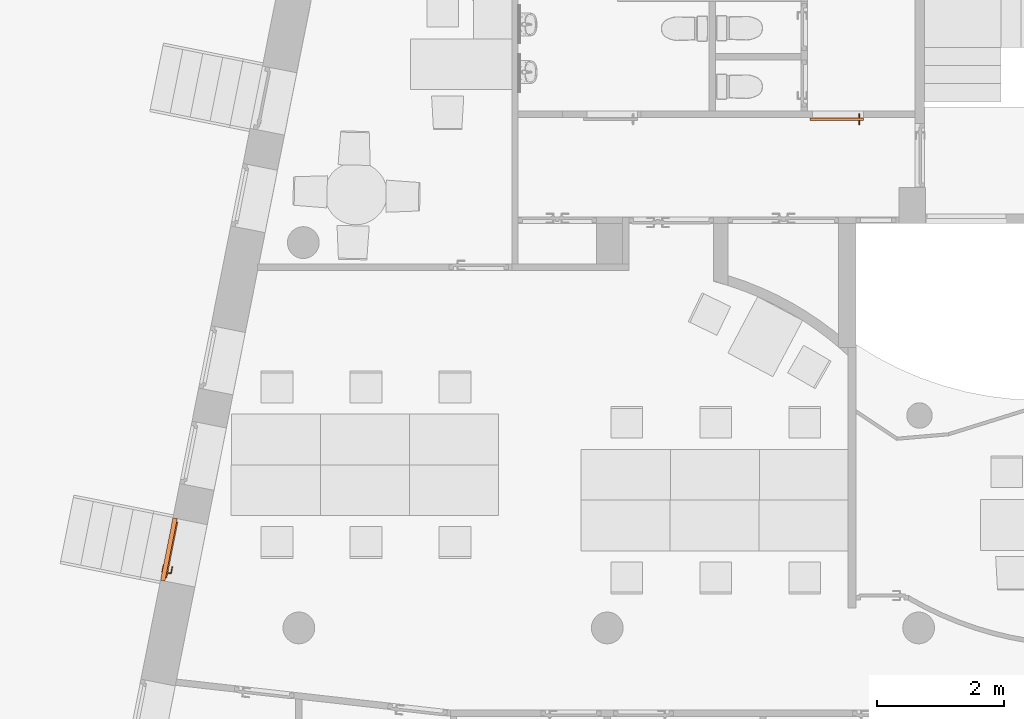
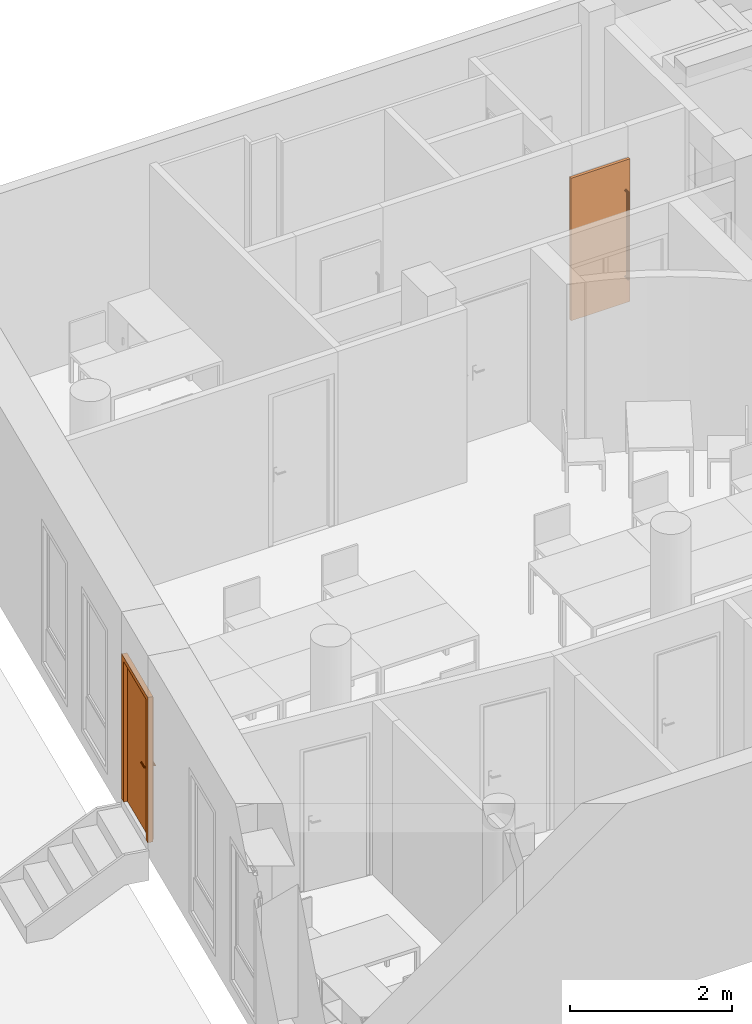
"""IFC4 building model written with IfcOpenShell, lengths in metres."""

from ifc_helpers import new_model, entity, si_unit, converted_unit, derived_unit, frame, origin, origin_with_axes, place, context, subcontext, project, spatial, faceted_brep, source, transform, mapped, element, save


model = new_model("IFC4")

# Units and contexts
model_context = context("Model", 3, precision=1e-05, world=origin())
body_context = subcontext(model_context, "Body", "Model", "MODEL_VIEW")
ifc_project = project(units=[si_unit("LENGTHUNIT", "METRE"), si_unit("AREAUNIT", "SQUARE_METRE"), si_unit("VOLUMEUNIT", "CUBIC_METRE"), si_unit("MASSUNIT", "GRAM", prefix="KILO"), converted_unit("PLANEANGLEUNIT", "DEGREE", entity("IfcPlaneAngleMeasure", 0.0174532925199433), si_unit("PLANEANGLEUNIT", "RADIAN"), dimensions=[0, 0, 0, 0, 0, 0, 0]), derived_unit("THERMALTRANSMITTANCEUNIT", [(si_unit("POWERUNIT", "WATT"), 1), (si_unit("THERMODYNAMICTEMPERATUREUNIT", "KELVIN"), -1), (si_unit("LENGTHUNIT", "METRE"), -2)]), derived_unit("VOLUMETRICFLOWRATEUNIT", [(si_unit("LENGTHUNIT", "METRE"), 3), (converted_unit("TIMEUNIT", "hour", entity("IfcTimeMeasure", 3600.0), si_unit("TIMEUNIT", "SECOND"), dimensions=[0, 0, 1, 0, 0, 0, 0]), -1), (si_unit("LENGTHUNIT", "METRE"), -1)])], contexts=[model_context])

# Building, storeys
building_placement = place(None, origin())
building = spatial("IfcBuilding", under=ifc_project, at=building_placement, Name="HABITATGE PLURIFAMILIAR", CompositionType="ELEMENT")
storey_1_placement = place(building_placement, frame((0.0, 0.0, 6.25)))
storey_1 = spatial("IfcBuildingStorey", under=building, at=storey_1_placement, Name="PLANTA PRIMERA", CompositionType="ELEMENT", Elevation=6.25)
storey_2_placement = place(storey_1_placement, frame((0.0, 0.0, 3.35)))
storey_2 = spatial("IfcBuildingStorey", under=storey_1, at=storey_2_placement, Name="NOU", CompositionType="PARTIAL")

# Proxies
shared_shape_1 = source(origin_with_axes(), body_context, "Body", "Brep", [
    faceted_brep([(0.0, 0.0800000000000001, 2.19), (0.0, 0.0799999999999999, 0.0), (0.07, 0.0799999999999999, 0.0), (0.07, 0.0800000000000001, 2.19), (0.0, 0.00999999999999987, 0.0), (0.0, 0.0100000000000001, 2.19), (0.07, 0.0100000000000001, 2.19), (0.07, 0.00999999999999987, 0.0)], [[[0, 1, 2, 3]], [[4, 5, 6, 7]], [[1, 0, 5, 4]], [[2, 1, 4, 7]], [[3, 2, 7, 6]], [[0, 3, 6, 5]]], orient=[[False], [False], [False], [False], [False], [False]]),
    faceted_brep([(0.929036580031, 0.0800000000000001, 2.19), (0.929036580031, 0.0799999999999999, 0.0), (0.999036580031, 0.0799999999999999, 0.0), (0.999036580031, 0.0800000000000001, 2.19), (0.929036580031, 0.00999999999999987, 0.0), (0.929036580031, 0.0100000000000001, 2.19), (0.999036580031, 0.0100000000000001, 2.19), (0.999036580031, 0.00999999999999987, 0.0)], [[[0, 1, 2, 3]], [[4, 5, 6, 7]], [[1, 0, 5, 4]], [[2, 1, 4, 7]], [[3, 2, 7, 6]], [[0, 3, 6, 5]]], orient=[[False], [False], [False], [False], [False], [False]]),
    faceted_brep([(0.07, 0.0800000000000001, 2.19), (0.07, 0.0800000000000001, 2.12), (0.929036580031, 0.0800000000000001, 2.12), (0.929036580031, 0.0800000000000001, 2.19), (0.07, 0.0100000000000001, 2.12), (0.07, 0.0100000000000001, 2.19), (0.929036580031, 0.0100000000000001, 2.19), (0.929036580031, 0.0100000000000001, 2.12)], [[[0, 1, 2, 3]], [[4, 5, 6, 7]], [[1, 0, 5, 4]], [[2, 1, 4, 7]], [[3, 2, 7, 6]], [[0, 3, 6, 5]]], orient=[[False], [False], [False], [False], [False], [False]]),
    faceted_brep([(0.05, 0.1, 2.14), (0.05, 0.0999999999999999, 0.0), (0.949036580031, 0.0999999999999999, 0.0), (0.949036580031, 0.1, 2.14), (0.05, 0.0599999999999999, 0.0), (0.05, 0.0600000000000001, 2.14), (0.949036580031, 0.0600000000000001, 2.14), (0.949036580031, 0.0599999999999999, 0.0)], [[[0, 1, 2, 3]], [[4, 5, 6, 7]], [[1, 0, 5, 4]], [[2, 1, 4, 7]], [[3, 2, 7, 6]], [[0, 3, 6, 5]]], orient=[[False], [False], [False], [False], [False], [False]]),
    faceted_brep([(0.11, 0.06, 1.125), (0.11, 0.06, 0.91), (0.16, 0.06, 0.91), (0.16, 0.06, 1.125), (0.11, 0.05, 0.91), (0.11, 0.05, 1.125), (0.16, 0.05, 1.125), (0.16, 0.05, 0.91)], [[[0, 1, 2, 3]], [[4, 5, 6, 7]], [[1, 0, 5, 4]], [[2, 1, 4, 7]], [[3, 2, 7, 6]], [[0, 3, 6, 5]]], orient=[[False], [False], [False], [False], [False], [False]]),
    faceted_brep([(0.135, 0.05, 1.06), (0.13, 0.05, 1.05866025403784), (0.126339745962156, 0.05, 1.055), (0.125, 0.05, 1.05), (0.126339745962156, 0.05, 1.045), (0.13, 0.05, 1.04133974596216), (0.135, 0.05, 1.04), (0.14, 0.05, 1.04133974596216), (0.143660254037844, 0.05, 1.045), (0.145, 0.05, 1.05), (0.143660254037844, 0.05, 1.055), (0.14, 0.05, 1.05866025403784), (0.135, 0.01, 1.06), (0.13, 0.00500000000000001, 1.05866025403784), (0.126339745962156, 0.00133974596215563, 1.055), (0.125, 0.0, 1.05), (0.126339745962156, 0.00133974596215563, 1.045), (0.13, 0.00500000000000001, 1.04133974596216), (0.135, 0.01, 1.04), (0.14, 0.015, 1.04133974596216), (0.143660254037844, 0.0186602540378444, 1.045), (0.145, 0.02, 1.05), (0.143660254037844, 0.0186602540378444, 1.055), (0.14, 0.015, 1.05866025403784), (0.25, 0.01, 1.06), (0.25, 0.015, 1.05866025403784), (0.25, 0.0186602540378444, 1.055), (0.25, 0.02, 1.05), (0.25, 0.0186602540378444, 1.045), (0.25, 0.015, 1.04133974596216), (0.25, 0.01, 1.04), (0.25, 0.005, 1.04133974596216), (0.25, 0.00133974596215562, 1.045), (0.25, 0.0, 1.05), (0.25, 0.00133974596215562, 1.055), (0.25, 0.005, 1.05866025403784)], [[[0, 1, 2, 3, 4, 5, 6, 7, 8, 9, 10, 11]], [[0, 12, 13, 1]], [[1, 13, 14, 2]], [[2, 14, 15, 3]], [[3, 15, 16, 4]], [[4, 16, 17, 5]], [[5, 17, 18, 6]], [[6, 18, 19, 7]], [[7, 19, 20, 8]], [[8, 20, 21, 9]], [[9, 21, 22, 10]], [[10, 22, 23, 11]], [[11, 23, 12, 0]], [[24, 25, 26, 27, 28, 29, 30, 31, 32, 33, 34, 35]], [[12, 24, 35, 13]], [[13, 35, 34, 14]], [[14, 34, 33, 15]], [[15, 33, 32, 16]], [[16, 32, 31, 17]], [[17, 31, 30, 18]], [[18, 30, 29, 19]], [[19, 29, 28, 20]], [[20, 28, 27, 21]], [[21, 27, 26, 22]], [[22, 26, 25, 23]], [[23, 25, 24, 12]]], orient=[[False], [False], [False], [False], [False], [False], [False], [False], [False], [False], [False], [False], [False], [False], [False], [False], [False], [False], [False], [False], [False], [False], [False], [False], [False], [False]]),
    faceted_brep([(0.11, 0.1, 1.125), (0.16, 0.1, 1.125), (0.16, 0.1, 0.91), (0.11, 0.1, 0.91), (0.11, 0.11, 0.91), (0.16, 0.11, 0.91), (0.16, 0.11, 1.125), (0.11, 0.11, 1.125)], [[[0, 1, 2, 3]], [[4, 5, 6, 7]], [[3, 4, 7, 0]], [[2, 5, 4, 3]], [[1, 6, 5, 2]], [[0, 7, 6, 1]]], orient=[[False], [False], [False], [False], [False], [False]]),
    faceted_brep([(0.135, 0.11, 1.06), (0.14, 0.11, 1.05866025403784), (0.143660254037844, 0.11, 1.055), (0.145, 0.11, 1.05), (0.143660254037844, 0.11, 1.045), (0.14, 0.11, 1.04133974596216), (0.135, 0.11, 1.04), (0.13, 0.11, 1.04133974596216), (0.126339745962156, 0.11, 1.045), (0.125, 0.11, 1.05), (0.126339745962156, 0.11, 1.055), (0.13, 0.11, 1.05866025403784), (0.13, 0.155, 1.05866025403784), (0.135, 0.15, 1.06), (0.126339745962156, 0.158660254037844, 1.055), (0.125, 0.16, 1.05), (0.126339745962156, 0.158660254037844, 1.045), (0.13, 0.155, 1.04133974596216), (0.135, 0.15, 1.04), (0.14, 0.145, 1.04133974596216), (0.143660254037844, 0.141339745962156, 1.045), (0.145, 0.14, 1.05), (0.143660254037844, 0.141339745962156, 1.055), (0.14, 0.145, 1.05866025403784), (0.25, 0.15, 1.06), (0.25, 0.155, 1.05866025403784), (0.25, 0.158660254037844, 1.055), (0.25, 0.16, 1.05), (0.25, 0.158660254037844, 1.045), (0.25, 0.155, 1.04133974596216), (0.25, 0.15, 1.04), (0.25, 0.145, 1.04133974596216), (0.25, 0.141339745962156, 1.045), (0.25, 0.14, 1.05), (0.25, 0.141339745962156, 1.055), (0.25, 0.145, 1.05866025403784)], [[[0, 1, 2, 3, 4, 5, 6, 7, 8, 9, 10, 11]], [[0, 11, 12, 13]], [[11, 10, 14, 12]], [[10, 9, 15, 14]], [[9, 8, 16, 15]], [[8, 7, 17, 16]], [[7, 6, 18, 17]], [[6, 5, 19, 18]], [[5, 4, 20, 19]], [[4, 3, 21, 20]], [[3, 2, 22, 21]], [[2, 1, 23, 22]], [[1, 0, 13, 23]], [[24, 25, 26, 27, 28, 29, 30, 31, 32, 33, 34, 35]], [[13, 12, 25, 24]], [[12, 14, 26, 25]], [[14, 15, 27, 26]], [[15, 16, 28, 27]], [[16, 17, 29, 28]], [[17, 18, 30, 29]], [[18, 19, 31, 30]], [[19, 20, 32, 31]], [[20, 21, 33, 32]], [[21, 22, 34, 33]], [[22, 23, 35, 34]], [[23, 13, 24, 35]]], orient=[[False], [False], [False], [False], [False], [False], [False], [False], [False], [False], [False], [False], [False], [False], [False], [False], [False], [False], [False], [False], [False], [False], [False], [False], [False], [False]]),
])
proxy_1_placement = place(storey_2_placement, frame((398.802516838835, 18.5524582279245, -3.26), z_axis=(0.0, 0.0, 1.0), x_axis=(0.194348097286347, 0.98093262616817, 0.0)))
element("IfcBuildingElementProxy", 1, at=proxy_1_placement, inside=storey_2, Name="Porta exterior P1", context=body_context, shape_type="MappedRepresentation", body=[
    mapped(shared_shape_1, transform((0.0, 0.0, 0.0), x_axis=(1.0, 0.0, 0.0), y_axis=(0.0, -1.0, 0.0), z_axis=(0.0, 0.0, 1.0), scale=1.0)),
])
shared_shape_2 = source(origin_with_axes(), body_context, "Body", "Brep", [
    faceted_brep([(0.0, 0.11, 2.15), (0.0, 0.11, 0.0), (0.844046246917, 0.11, 0.0), (0.844046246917, 0.11, 2.15), (0.0, 0.0699999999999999, 0.0), (0.0, 0.0700000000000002, 2.15), (0.844046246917, 0.0700000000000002, 2.15), (0.844046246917, 0.0699999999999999, 0.0)], [[[0, 1, 2, 3]], [[4, 5, 6, 7]], [[1, 0, 5, 4]], [[2, 1, 4, 7]], [[3, 2, 7, 6]], [[0, 3, 6, 5]]], orient=[[False], [False], [False], [False], [False], [False]]),
    faceted_brep([(0.08, 0.0700000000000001, 1.7), (0.0779903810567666, 0.0700000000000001, 1.7075), (0.0725, 0.0700000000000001, 1.71299038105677), (0.065, 0.0700000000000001, 1.715), (0.0575, 0.0700000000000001, 1.71299038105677), (0.0520096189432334, 0.0700000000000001, 1.7075), (0.05, 0.0700000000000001, 1.7), (0.0520096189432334, 0.0700000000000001, 1.6925), (0.0575, 0.0700000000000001, 1.68700961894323), (0.065, 0.0700000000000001, 1.685), (0.0725, 0.0700000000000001, 1.68700961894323), (0.0779903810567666, 0.0700000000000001, 1.6925), (0.08, 0.0150000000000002, 1.7), (0.0779903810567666, 0.00750000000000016, 1.7075), (0.0725, 0.00200961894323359, 1.71299038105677), (0.065, 0.0, 1.715), (0.0575, 0.00200961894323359, 1.71299038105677), (0.0520096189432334, 0.00750000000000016, 1.7075), (0.05, 0.0150000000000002, 1.7), (0.0520096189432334, 0.0225000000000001, 1.6925), (0.0575, 0.0279903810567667, 1.68700961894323), (0.065, 0.0300000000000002, 1.685), (0.0725, 0.0279903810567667, 1.68700961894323), (0.0779903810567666, 0.0225000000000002, 1.6925), (0.08, 0.015, 0.4), (0.0779903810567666, 0.00749999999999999, 0.3925), (0.0725, 0.00200961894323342, 0.387009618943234), (0.065, 0.0, 0.385), (0.0575, 0.00200961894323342, 0.387009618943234), (0.0520096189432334, 0.00749999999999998, 0.3925), (0.05, 0.015, 0.4), (0.0520096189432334, 0.0225, 0.4075), (0.0575, 0.0279903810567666, 0.412990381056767), (0.065, 0.03, 0.415), (0.0725, 0.0279903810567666, 0.412990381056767), (0.0779903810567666, 0.0225, 0.4075), (0.0800000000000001, 0.07, 0.4), (0.0779903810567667, 0.07, 0.4075), (0.0725000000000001, 0.07, 0.412990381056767), (0.0650000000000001, 0.07, 0.415), (0.0575000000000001, 0.07, 0.412990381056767), (0.0520096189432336, 0.07, 0.4075), (0.0500000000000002, 0.07, 0.4), (0.0520096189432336, 0.07, 0.3925), (0.0575000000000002, 0.07, 0.387009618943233), (0.0650000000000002, 0.07, 0.385), (0.0725000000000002, 0.07, 0.387009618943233), (0.0779903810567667, 0.07, 0.3925)], [[[0, 1, 2, 3, 4, 5, 6, 7, 8, 9, 10, 11]], [[0, 12, 13, 1]], [[1, 13, 14, 2]], [[2, 14, 15, 3]], [[3, 15, 16, 4]], [[4, 16, 17, 5]], [[5, 17, 18, 6]], [[6, 18, 19, 7]], [[7, 19, 20, 8]], [[8, 20, 21, 9]], [[9, 21, 22, 10]], [[10, 22, 23, 11]], [[11, 23, 12, 0]], [[12, 24, 25, 13]], [[13, 25, 26, 14]], [[14, 26, 27, 15]], [[15, 27, 28, 16]], [[16, 28, 29, 17]], [[17, 29, 30, 18]], [[18, 30, 31, 19]], [[19, 31, 32, 20]], [[20, 32, 33, 21]], [[21, 33, 34, 22]], [[22, 34, 35, 23]], [[23, 35, 24, 12]], [[36, 37, 38, 39, 40, 41, 42, 43, 44, 45, 46, 47]], [[24, 36, 47, 25]], [[25, 47, 46, 26]], [[26, 46, 45, 27]], [[27, 45, 44, 28]], [[28, 44, 43, 29]], [[29, 43, 42, 30]], [[30, 42, 41, 31]], [[31, 41, 40, 32]], [[32, 40, 39, 33]], [[33, 39, 38, 34]], [[34, 38, 37, 35]], [[35, 37, 36, 24]]], orient=[[False], [False], [False], [False], [False], [False], [False], [False], [False], [False], [False], [False], [False], [False], [False], [False], [False], [False], [False], [False], [False], [False], [False], [False], [False], [False], [False], [False], [False], [False], [False], [False], [False], [False], [False], [False], [False], [False]]),
    faceted_brep([(0.08, 0.11, 1.7), (0.0779903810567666, 0.11, 1.6925), (0.0725, 0.11, 1.68700961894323), (0.065, 0.11, 1.685), (0.0575, 0.11, 1.68700961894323), (0.0520096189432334, 0.11, 1.6925), (0.05, 0.11, 1.7), (0.0520096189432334, 0.11, 1.7075), (0.0575, 0.11, 1.71299038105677), (0.065, 0.11, 1.715), (0.0725, 0.11, 1.71299038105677), (0.0779903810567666, 0.11, 1.7075), (0.0779903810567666, 0.1725, 1.7075), (0.08, 0.165, 1.7), (0.0725, 0.177990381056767, 1.71299038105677), (0.065, 0.18, 1.715), (0.0575, 0.177990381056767, 1.71299038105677), (0.0520096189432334, 0.1725, 1.7075), (0.05, 0.165, 1.7), (0.0520096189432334, 0.1575, 1.6925), (0.0575, 0.152009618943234, 1.68700961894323), (0.065, 0.15, 1.685), (0.0725, 0.152009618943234, 1.68700961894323), (0.0779903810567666, 0.1575, 1.6925), (0.0779903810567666, 0.1725, 0.3925), (0.08, 0.165, 0.4), (0.0725, 0.177990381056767, 0.387009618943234), (0.065, 0.18, 0.385), (0.0575, 0.177990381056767, 0.387009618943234), (0.0520096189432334, 0.1725, 0.3925), (0.05, 0.165, 0.4), (0.0520096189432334, 0.1575, 0.4075), (0.0575, 0.152009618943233, 0.412990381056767), (0.065, 0.15, 0.415), (0.0725, 0.152009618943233, 0.412990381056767), (0.0779903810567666, 0.1575, 0.4075), (0.0800000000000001, 0.11, 0.4), (0.0779903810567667, 0.11, 0.3925), (0.0725000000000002, 0.11, 0.387009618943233), (0.0650000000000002, 0.11, 0.385), (0.0575000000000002, 0.11, 0.387009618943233), (0.0520096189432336, 0.11, 0.3925), (0.0500000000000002, 0.11, 0.4), (0.0520096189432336, 0.11, 0.4075), (0.0575000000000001, 0.11, 0.412990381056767), (0.0650000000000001, 0.11, 0.415), (0.0725000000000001, 0.11, 0.412990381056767), (0.0779903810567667, 0.11, 0.4075)], [[[0, 1, 2, 3, 4, 5, 6, 7, 8, 9, 10, 11]], [[0, 11, 12, 13]], [[11, 10, 14, 12]], [[10, 9, 15, 14]], [[9, 8, 16, 15]], [[8, 7, 17, 16]], [[7, 6, 18, 17]], [[6, 5, 19, 18]], [[5, 4, 20, 19]], [[4, 3, 21, 20]], [[3, 2, 22, 21]], [[2, 1, 23, 22]], [[1, 0, 13, 23]], [[13, 12, 24, 25]], [[12, 14, 26, 24]], [[14, 15, 27, 26]], [[15, 16, 28, 27]], [[16, 17, 29, 28]], [[17, 18, 30, 29]], [[18, 19, 31, 30]], [[19, 20, 32, 31]], [[20, 21, 33, 32]], [[21, 22, 34, 33]], [[22, 23, 35, 34]], [[23, 13, 25, 35]], [[36, 37, 38, 39, 40, 41, 42, 43, 44, 45, 46, 47]], [[25, 24, 37, 36]], [[24, 26, 38, 37]], [[26, 27, 39, 38]], [[27, 28, 40, 39]], [[28, 29, 41, 40]], [[29, 30, 42, 41]], [[30, 31, 43, 42]], [[31, 32, 44, 43]], [[32, 33, 45, 44]], [[33, 34, 46, 45]], [[34, 35, 47, 46]], [[35, 25, 36, 47]]], orient=[[False], [False], [False], [False], [False], [False], [False], [False], [False], [False], [False], [False], [False], [False], [False], [False], [False], [False], [False], [False], [False], [False], [False], [False], [False], [False], [False], [False], [False], [False], [False], [False], [False], [False], [False], [False], [False], [False]]),
])
proxy_2_placement = place(storey_2_placement, frame((409.865722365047, 25.8894598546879, -3.35), z_axis=(0.0, 0.0, 1.0), x_axis=(-1.00000000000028, 1.22464679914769e-16, 0.0)))
element("IfcBuildingElementProxy", 2, at=proxy_2_placement, inside=storey_2, Name="Porta P1", context=body_context, shape_type="MappedRepresentation", body=[
    mapped(shared_shape_2, transform((0.0, 0.0, 0.0), x_axis=(1.0, 0.0, 0.0), y_axis=(0.0, 1.0, 0.0), z_axis=(0.0, 0.0, 1.0), scale=1.00000000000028)),
])

save(model, "model.ifc")
